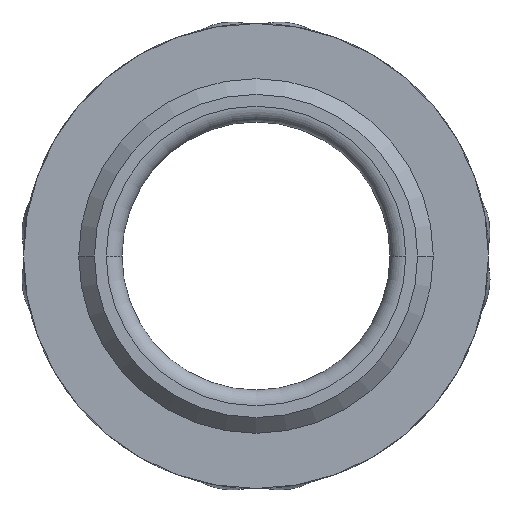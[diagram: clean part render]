
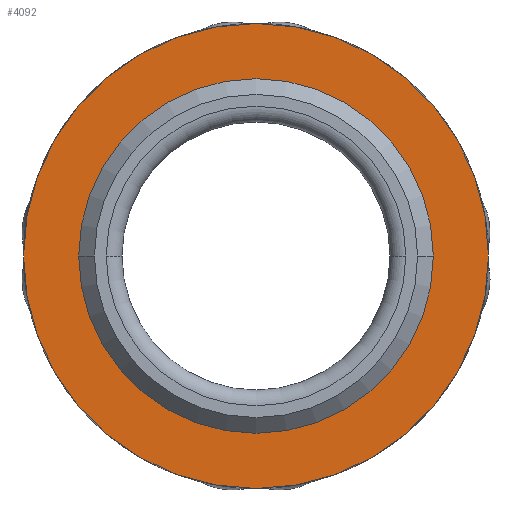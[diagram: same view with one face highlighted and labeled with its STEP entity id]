
A CAD part, front view. The second image highlights one B-rep face of the part: STEP entity #4092.
In plain terms, the highlighted planar face has unit normal (0, -1, 0).
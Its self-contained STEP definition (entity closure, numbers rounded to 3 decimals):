
#30 = DIRECTION ( 'NONE',  ( 1., 0., 0. ) ) ;
#234 = CARTESIAN_POINT ( 'NONE',  ( 3888.1, 1628.19, 0. ) ) ;
#289 = VERTEX_POINT ( 'NONE', #6808 ) ;
#549 = AXIS2_PLACEMENT_3D ( 'NONE', #5580, #6989, #1371 ) ;
#718 = ORIENTED_EDGE ( 'NONE', *, *, #4657, .F. ) ;
#1371 = DIRECTION ( 'NONE',  ( 1., 0., 0. ) ) ;
#1582 = DIRECTION ( 'NONE',  ( 0., -1., 0. ) ) ;
#1621 = ORIENTED_EDGE ( 'NONE', *, *, #6793, .F. ) ;
#1911 = EDGE_LOOP ( 'NONE', ( #718, #1621 ) ) ;
#1944 = EDGE_CURVE ( 'NONE', #6060, #6140, #7845, .T. ) ;
#2155 = CIRCLE ( 'NONE', #5413, 10.5 ) ;
#2904 = DIRECTION ( 'NONE',  ( 0., -1., 0. ) ) ;
#3419 = EDGE_CURVE ( 'NONE', #6140, #6060, #4720, .T. ) ;
#3903 = CARTESIAN_POINT ( 'NONE',  ( 3902.85, 1628.19, 0. ) ) ;
#4092 = ADVANCED_FACE ( 'NONE', ( #4260, #9010 ), #5505, .F. ) ;
#4260 = FACE_BOUND ( 'NONE', #1911, .T. ) ;
#4511 = DIRECTION ( 'NONE',  ( 1., 0., 0. ) ) ;
#4657 = EDGE_CURVE ( 'NONE', #289, #5065, #5589, .T. ) ;
#4720 = CIRCLE ( 'NONE', #6256, 14.75 ) ;
#5065 = VERTEX_POINT ( 'NONE', #6913 ) ;
#5184 = AXIS2_PLACEMENT_3D ( 'NONE', #8573, #2904, #30 ) ;
#5413 = AXIS2_PLACEMENT_3D ( 'NONE', #5784, #1582, #6476 ) ;
#5505 = PLANE ( 'NONE',  #7168 ) ;
#5533 = DIRECTION ( 'NONE',  ( 0., 1., 0. ) ) ;
#5580 = CARTESIAN_POINT ( 'NONE',  ( 3888.1, 1628.19, 0. ) ) ;
#5589 = CIRCLE ( 'NONE', #549, 10.5 ) ;
#5784 = CARTESIAN_POINT ( 'NONE',  ( 3888.1, 1628.19, 0. ) ) ;
#6060 = VERTEX_POINT ( 'NONE', #8829 ) ;
#6140 = VERTEX_POINT ( 'NONE', #3903 ) ;
#6256 = AXIS2_PLACEMENT_3D ( 'NONE', #234, #8079, #4511 ) ;
#6445 = ORIENTED_EDGE ( 'NONE', *, *, #1944, .T. ) ;
#6476 = DIRECTION ( 'NONE',  ( 1., 0., 0. ) ) ;
#6793 = EDGE_CURVE ( 'NONE', #5065, #289, #2155, .T. ) ;
#6808 = CARTESIAN_POINT ( 'NONE',  ( 3898.6, 1628.19, 0. ) ) ;
#6913 = CARTESIAN_POINT ( 'NONE',  ( 3877.6, 1628.19, 0. ) ) ;
#6989 = DIRECTION ( 'NONE',  ( 0., -1., 0. ) ) ;
#7168 = AXIS2_PLACEMENT_3D ( 'NONE', #7660, #5533, #7639 ) ;
#7639 = DIRECTION ( 'NONE',  ( -1., 0., 0. ) ) ;
#7660 = CARTESIAN_POINT ( 'NONE',  ( 0., 1628.19, 0. ) ) ;
#7845 = CIRCLE ( 'NONE', #5184, 14.75 ) ;
#8079 = DIRECTION ( 'NONE',  ( 0., -1., 0. ) ) ;
#8573 = CARTESIAN_POINT ( 'NONE',  ( 3888.1, 1628.19, 0. ) ) ;
#8812 = EDGE_LOOP ( 'NONE', ( #8820, #6445 ) ) ;
#8820 = ORIENTED_EDGE ( 'NONE', *, *, #3419, .T. ) ;
#8829 = CARTESIAN_POINT ( 'NONE',  ( 3873.35, 1628.19, 0. ) ) ;
#9010 = FACE_OUTER_BOUND ( 'NONE', #8812, .T. ) ;
